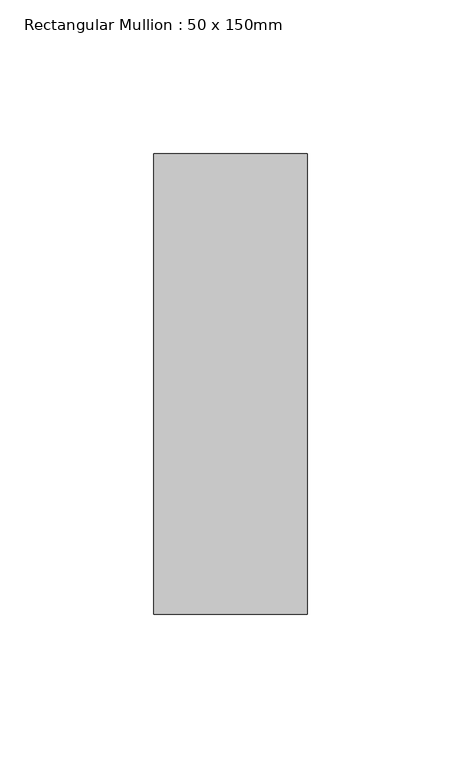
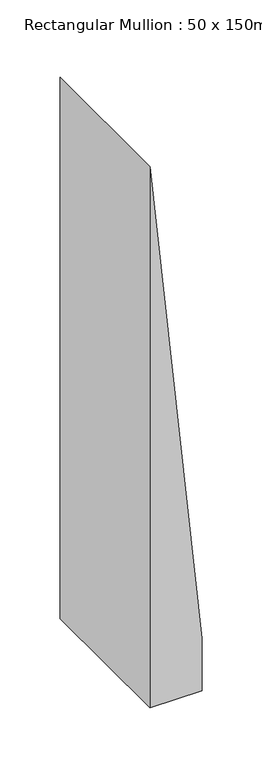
"""IFC4 building model written with IfcOpenShell, lengths in millimetres: member geometry, Rectangular Mullion : 50 x 150mm."""

from ifc_helpers import new_model, si_unit, frame, origin, place, context, project, spatial, polyline, outline, extrude, source, transform, mapped, element, save


def rectangular_mullion_50_x_150mm_b50523f8(model_context):
    return source(origin(), model_context, "Body", "SweptSolid", [
        extrude(outline(polyline([(-748.406955, 25.0), (-251.1405994, -25.0), (-801.6070557, -25.0), (-801.6070557, 25.0), (-748.406955, 25.0)])), frame((0.0, -75.0, 0.0), z_axis=(0.0, 1.0, 0.0), x_axis=(0.0, 0.0, 1.0)), (0.0, 0.0, 1.0), 150.0),
    ])


if __name__ == "__main__":
    model = new_model("IFC4")
    model_context = context("Model", 3, world=origin())
    ifc_project = project(units=[si_unit("LENGTHUNIT", "METRE", prefix="MILLI")], contexts=[model_context])
    site = spatial("IfcSite", under=ifc_project)
    building = spatial("IfcBuilding", under=site)
    placement = place(None, origin())
    rectangular_mullion_50_x_150mm_shape = rectangular_mullion_50_x_150mm_b50523f8(model_context)
    element("IfcMember", 1, ObjectType="Rectangular Mullion : 50 x 150mm", at=placement, inside=building, context=model_context, shape_type="MappedRepresentation", body=[
        mapped(rectangular_mullion_50_x_150mm_shape, transform((0.0, 0.0, 0.0), x_axis=(1.0, 0.0, 0.0), y_axis=(0.0, 1.0, 0.0), z_axis=(0.0, 0.0, 1.0))),
    ])
    save(model, "model.ifc")
